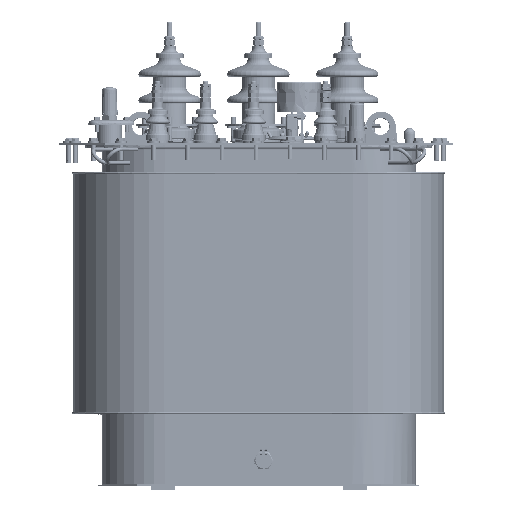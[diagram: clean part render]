
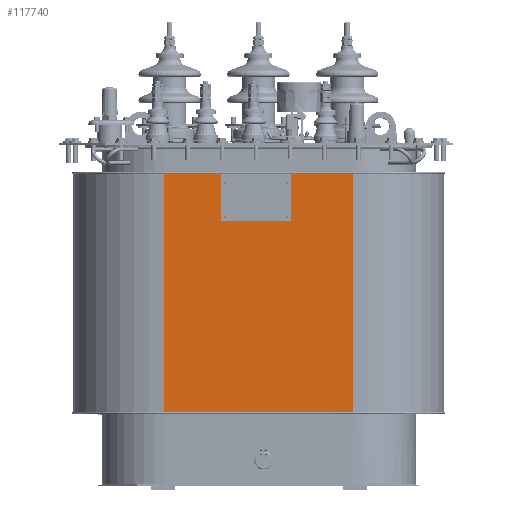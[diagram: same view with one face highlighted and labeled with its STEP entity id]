
A CAD part, top view. The second image highlights one B-rep face of the part: STEP entity #117740.
In plain terms, the highlighted planar face has unit normal (0, 0, -1).
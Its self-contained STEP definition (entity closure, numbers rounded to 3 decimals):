
#7801=PLANE('',#128948);
#13526=LINE('',#250470,#19273);
#13527=LINE('',#250474,#19274);
#13528=LINE('',#250476,#19275);
#13529=LINE('',#250477,#19276);
#19273=VECTOR('',#157003,50.);
#19274=VECTOR('',#157008,39.3);
#19275=VECTOR('',#157009,50.);
#19276=VECTOR('',#157010,39.3);
#27110=FACE_OUTER_BOUND('',#36092,.T.);
#36092=EDGE_LOOP('',(#101716,#101717,#101718,#101719));
#54954=VERTEX_POINT('',#250467);
#54955=VERTEX_POINT('',#250469);
#54956=VERTEX_POINT('',#250473);
#54957=VERTEX_POINT('',#250475);
#70510=EDGE_CURVE('',#54954,#54955,#13526,.T.);
#70512=EDGE_CURVE('',#54956,#54954,#13527,.T.);
#70513=EDGE_CURVE('',#54956,#54957,#13528,.T.);
#70514=EDGE_CURVE('',#54957,#54955,#13529,.T.);
#101716=ORIENTED_EDGE('',*,*,#70512,.F.);
#101717=ORIENTED_EDGE('',*,*,#70513,.T.);
#101718=ORIENTED_EDGE('',*,*,#70514,.T.);
#101719=ORIENTED_EDGE('',*,*,#70510,.F.);
#117740=ADVANCED_FACE('',(#27110),#7801,.F.);
#128948=AXIS2_PLACEMENT_3D('',#250472,#157006,#157007);
#157003=DIRECTION('',(0.,1.,0.));
#157006=DIRECTION('center_axis',(0.,0.,
1.));
#157007=DIRECTION('ref_axis',(1.,0.,0.));
#157008=DIRECTION('',(1.,0.,0.));
#157009=DIRECTION('',(0.,1.,0.));
#157010=DIRECTION('',(1.,0.,0.));
#250467=CARTESIAN_POINT('',(20.18,3.1,19.));
#250469=CARTESIAN_POINT('',(20.18,53.1,19.));
#250470=CARTESIAN_POINT('',(20.18,3.1,19.));
#250472=CARTESIAN_POINT('Origin',(-19.12,3.1,19.));
#250473=CARTESIAN_POINT('',(-19.12,3.1,19.));
#250474=CARTESIAN_POINT('',(-19.12,3.1,19.));
#250475=CARTESIAN_POINT('',(-19.12,53.1,19.));
#250476=CARTESIAN_POINT('',(-19.12,3.1,19.));
#250477=CARTESIAN_POINT('',(-19.12,53.1,19.));
